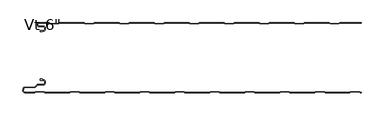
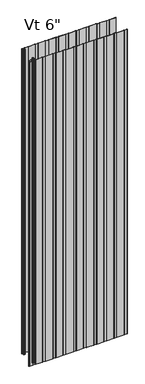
"""IFC4 building model written with IfcOpenShell, lengths in millimetres: plate geometry."""

from ifc_helpers import new_model, si_unit, point, frame, frame_2d, origin, origin_with_axes, place, context, project, spatial, polyline, circle_curve, trimmed, segment, composite_curve, outline, extrude, source, transform, mapped, element, save
from ifc_brep_helpers import plane_surface, cylinder_surface, revolved_surface, advanced_brep


def plate_7e46fe94(model_context):
    return source(origin(), model_context, "Body", "SolidModel", [
        advanced_brep(
        [(-346.968691, -17.0015202, 2400.0), (-347.9686883, -18.0015234, 2400.0), (-346.968691, -19.0015147, 2400.0), (-342.9684874, -19.0015147, 2400.0), (-342.9684874, -18.0015202, 2400.0), (-340.2762776, -18.0015202, 2400.0), (-336.9762819, -14.7015245, 2400.0), (-336.9762819, -10.3015333, 2400.0), (-340.2762774, -7.0015378, 2400.0), (-350.6962563, -7.0015378, 2400.0), (-352.4662505, -5.2315436, 2400.0), (-352.4662505, -0.9999959, 2400.0), (-327.9659738, -0.9999959, 2400.0), (-326.5803312, -2.200235, 2400.0), (-307.2051649, -2.200235, 2400.0), (-305.819532, -1.0000043, 2400.0), (-251.7661166, -1.0000043, 2400.0), (-250.3804836, -2.200235, 2400.0), (-231.0053173, -2.200235, 2400.0), (-229.6196844, -1.0000043, 2400.0), (-175.566269, -1.0000043, 2400.0), (-174.180636, -2.200235, 2400.0), (-154.8054697, -2.200235, 2400.0), (-153.4198368, -1.0000043, 2400.0), (-99.3664214, -1.0000043, 2400.0), (-97.9807884, -2.200235, 2400.0), (-78.6056221, -2.200235, 2400.0), (-77.2199892, -1.0000043, 2400.0), (-23.1665738, -1.0000043, 2400.0), (-21.7809408, -2.200235, 2400.0), (-2.4057745, -2.200235, 2400.0), (-1.0201416, -1.0000043, 2400.0), (53.0332738, -1.0000043, 2400.0), (54.4189068, -2.200235, 2400.0), (73.7940731, -2.200235, 2400.0), (75.179706, -1.0000043, 2400.0), (129.2331214, -1.0000043, 2400.0), (130.6187544, -2.200235, 2400.0), (149.9939207, -2.200235, 2400.0), (151.3795536, -1.0000043, 2400.0), (205.432969, -1.0000043, 2400.0), (206.818602, -2.200235, 2400.0), (226.1937683, -2.200235, 2400.0), (227.5794012, -1.0000043, 2400.0), (281.6328166, -1.0000043, 2400.0), (283.0184496, -2.200235, 2400.0), (302.3936159, -2.200235, 2400.0), (303.7792488, -1.0000043, 2400.0), (350.4999998, -1.0000043, 2400.0), (350.4999998, -4.3e-06, 2400.0), (303.9284, -4.3e-06, 2400.0), (303.0117831, -0.3417928, 2400.0), (302.0207355, -1.200235, 2400.0), (283.39133, -1.200235, 2400.0), (282.4002824, -0.3417928, 2400.0), (281.4836655, -4.3e-06, 2400.0), (227.7285524, -4.3e-06, 2400.0), (226.8119355, -0.3417928, 2400.0), (225.8208879, -1.200235, 2400.0), (207.1914824, -1.200235, 2400.0), (206.2004348, -0.3417928, 2400.0), (205.2838179, -4.3e-06, 2400.0), (151.5287048, -4.3e-06, 2400.0), (150.6120879, -0.3417928, 2400.0), (149.6210403, -1.200235, 2400.0), (130.9916348, -1.200235, 2400.0), (130.0005872, -0.3417928, 2400.0), (129.0839703, -4.3e-06, 2400.0), (75.3288572, -4.3e-06, 2400.0), (74.4122403, -0.3417928, 2400.0), (73.4211927, -1.200235, 2400.0), (54.7917872, -1.200235, 2400.0), (53.8007396, -0.3417928, 2400.0), (52.8841227, -4.3e-06, 2400.0), (-0.8709904, -4.3e-06, 2400.0), (-1.7876073, -0.3417928, 2400.0), (-2.7786549, -1.200235, 2400.0), (-21.4080604, -1.200235, 2400.0), (-22.399108, -0.3417928, 2400.0), (-23.3157249, -4.3e-06, 2400.0), (-77.070838, -4.3e-06, 2400.0), (-77.9874549, -0.3417928, 2400.0), (-78.9785025, -1.200235, 2400.0), (-97.607908, -1.200235, 2400.0), (-98.5989556, -0.3417928, 2400.0), (-99.5155725, -4.3e-06, 2400.0), (-153.2706856, -4.3e-06, 2400.0), (-154.1873025, -0.3417928, 2400.0), (-155.1783501, -1.200235, 2400.0), (-173.8077556, -1.200235, 2400.0), (-174.7988032, -0.3417928, 2400.0), (-175.7154201, -4.3e-06, 2400.0), (-229.4705332, -4.3e-06, 2400.0), (-230.3871501, -0.3417928, 2400.0), (-231.3781977, -1.200235, 2400.0), (-250.0076032, -1.200235, 2400.0), (-250.9986508, -0.3417928, 2400.0), (-251.9152677, -4.3e-06, 2400.0), (-305.6703808, -4.3e-06, 2400.0), (-306.5869977, -0.3417928, 2400.0), (-307.5780453, -1.200235, 2400.0), (-326.2074508, -1.200235, 2400.0), (-327.1984984, -0.3417928, 2400.0), (-328.1152067, -4.3e-06, 2400.0), (-352.0662543, 4.1e-06, 2400.0), (-353.4662505, -1.3999921, 2400.0), (-353.4662505, -5.2315436, 2400.0), (-350.6962563, -8.0015378, 2400.0), (-340.2762774, -8.0015378, 2400.0), (-337.9762819, -10.3015333, 2400.0), (-337.9762819, -14.7015245, 2400.0), (-340.2762776, -17.0015202, 2400.0), (-346.968691, -17.0015202, 0.0), (-340.2762776, -17.0015202, 0.0), (-337.9762819, -14.7015245, 0.0), (-337.9762819, -10.3015333, 0.0), (-340.2762774, -8.0015378, 0.0), (-350.6962563, -8.0015378, 0.0), (-353.4662505, -5.2315436, 0.0), (-353.4662505, -1.3999921, 0.0), (-352.0662543, 4.1e-06, 0.0), (-328.1151153, 4.1e-06, 0.0), (-327.1984984, -0.3417928, 0.0), (-326.2074508, -1.200235, 0.0), (-307.5780453, -1.200235, 0.0), (-306.5869977, -0.3417928, 0.0), (-305.6703808, -4.3e-06, 0.0), (-251.9152677, -4.3e-06, 0.0), (-250.9986508, -0.3417928, 0.0), (-250.0076032, -1.200235, 0.0), (-231.3781977, -1.200235, 0.0), (-230.3871501, -0.3417928, 0.0), (-229.4705332, -4.3e-06, 0.0), (-175.7154201, -4.3e-06, 0.0), (-174.7988032, -0.3417928, 0.0), (-173.8077556, -1.200235, 0.0), (-155.1783501, -1.200235, 0.0), (-154.1873025, -0.3417928, 0.0), (-153.2706856, -4.3e-06, 0.0), (-99.5155725, -4.3e-06, 0.0), (-98.5989556, -0.3417928, 0.0), (-97.607908, -1.200235, 0.0), (-78.9785025, -1.200235, 0.0), (-77.9874549, -0.3417928, 0.0), (-77.070838, -4.3e-06, 0.0), (-23.3157249, -4.3e-06, 0.0), (-22.399108, -0.3417928, 0.0), (-21.4080604, -1.200235, 0.0), (-2.7786549, -1.200235, 0.0), (-1.7876073, -0.3417928, 0.0), (-0.8709904, -4.3e-06, 0.0), (52.8841227, -4.3e-06, 0.0), (53.8007396, -0.3417928, 0.0), (54.7917872, -1.200235, 0.0), (73.4211927, -1.200235, 0.0), (74.4122403, -0.3417928, 0.0), (75.3288572, -4.3e-06, 0.0), (129.0839703, -4.3e-06, 0.0), (130.0005872, -0.3417928, 0.0), (130.9916348, -1.200235, 0.0), (149.6210403, -1.200235, 0.0), (150.6120879, -0.3417928, 0.0), (151.5287048, -4.3e-06, 0.0), (205.2838179, -4.3e-06, 0.0), (206.2004348, -0.3417928, 0.0), (207.1914824, -1.200235, 0.0), (225.8208879, -1.200235, 0.0), (226.8119355, -0.3417928, 0.0), (227.7285524, -4.3e-06, 0.0), (281.4836655, -4.3e-06, 0.0), (282.4002824, -0.3417928, 0.0), (283.39133, -1.200235, 0.0), (302.0207355, -1.200235, 0.0), (303.0117831, -0.3417928, 0.0), (303.9284, -4.3e-06, 0.0), (350.4999998, -4.3e-06, 0.0), (350.4999998, -1.0000043, 0.0), (303.7792488, -1.0000043, 0.0), (302.3936159, -2.200235, 0.0), (283.0184496, -2.200235, 0.0), (281.6328166, -1.0000043, 0.0), (227.5794012, -1.0000043, 0.0), (226.1937683, -2.200235, 0.0), (206.818602, -2.200235, 0.0), (205.432969, -1.0000043, 0.0), (151.3795536, -1.0000043, 0.0), (149.9939207, -2.200235, 0.0), (130.6187544, -2.200235, 0.0), (129.2331214, -1.0000043, 0.0), (75.179706, -1.0000043, 0.0), (73.7940731, -2.200235, 0.0), (54.4189068, -2.200235, 0.0), (53.0332738, -1.0000043, 0.0), (-1.0201416, -1.0000043, 0.0), (-2.4057745, -2.200235, 0.0), (-21.7809408, -2.200235, 0.0), (-23.1665738, -1.0000043, 0.0), (-77.2199892, -1.0000043, 0.0), (-78.6056221, -2.200235, 0.0), (-97.9807884, -2.200235, 0.0), (-99.3664214, -1.0000043, 0.0), (-153.4198368, -1.0000043, 0.0), (-154.8054697, -2.200235, 0.0), (-174.180636, -2.200235, 0.0), (-175.566269, -1.0000043, 0.0), (-229.6196844, -1.0000043, 0.0), (-231.0053173, -2.200235, 0.0), (-250.3804836, -2.200235, 0.0), (-251.7661166, -1.0000043, 0.0), (-305.819532, -1.0000043, 0.0), (-307.2051649, -2.200235, 0.0), (-326.5803312, -2.200235, 0.0), (-327.9659738, -0.9999959, 0.0), (-352.4662505, -0.9999959, 0.0), (-352.4662505, -5.2315436, 0.0), (-350.6962563, -7.0015378, 0.0), (-340.2762774, -7.0015378, 0.0), (-336.9762819, -10.3015333, 0.0), (-336.9762819, -14.7015245, 0.0), (-340.2762776, -18.0015202, 0.0), (-342.9684874, -18.0015202, 0.0), (-342.9684874, -19.0015147, 0.0), (-346.968691, -19.0015147, 0.0), (-347.9686882, -18.0015235, 0.0)],
        [
            (0, 1, circle_curve(frame((-346.968691, -18.0015175, 2400.0), z_axis=(0.0, 0.0, 1.0), x_axis=(1.0, 0.0, 0.0)), 0.9999973)),
            (1, 2, circle_curve(frame((-346.968691, -18.0015175, 2400.0), z_axis=(0.0, 0.0, 1.0), x_axis=(1.0, 0.0, 0.0)), 0.9999972)),
            (2, 3),
            (3, 4),
            (4, 5),
            (5, 6, circle_curve(frame((-340.2762776, -14.7015245, 2400.0), z_axis=(0.0, 0.0, 1.0), x_axis=(1.0, 0.0, 0.0)), 3.2999957)),
            (6, 7),
            (7, 8, circle_curve(frame((-340.2762774, -10.3015333, 2400.0), z_axis=(0.0, 0.0, 1.0), x_axis=(1.0, 0.0, 0.0)), 3.2999955)),
            (8, 9),
            (9, 10, circle_curve(frame((-350.6962563, -5.2315436, 2400.0), z_axis=(0.0, 0.0, -1.0), x_axis=(1.0, 0.0, 0.0)), 1.7699942)),
            (10, 11),
            (11, 12),
            (12, 13),
            (13, 14),
            (14, 15),
            (15, 16),
            (16, 17),
            (17, 18),
            (18, 19),
            (19, 20),
            (20, 21),
            (21, 22),
            (22, 23),
            (23, 24),
            (24, 25),
            (25, 26),
            (26, 27),
            (27, 28),
            (28, 29),
            (29, 30),
            (30, 31),
            (31, 32),
            (32, 33),
            (33, 34),
            (34, 35),
            (35, 36),
            (36, 37),
            (37, 38),
            (38, 39),
            (39, 40),
            (40, 41),
            (41, 42),
            (42, 43),
            (43, 44),
            (44, 45),
            (45, 46),
            (46, 47),
            (47, 48),
            (48, 49),
            (49, 50),
            (50, 51, circle_curve(frame((303.9284, -1.4000015, 2400.0), z_axis=(0.0, 0.0, 1.0), x_axis=(1.0, 0.0, 0.0)), 1.3999972)),
            (51, 52),
            (52, 53),
            (53, 54),
            (54, 55, circle_curve(frame((281.4836655, -1.4000015, 2400.0), z_axis=(0.0, 0.0, 1.0), x_axis=(1.0, 0.0, 0.0)), 1.3999972)),
            (55, 56),
            (56, 57, circle_curve(frame((227.7285524, -1.4000015, 2400.0), z_axis=(0.0, 0.0, 1.0), x_axis=(1.0, 0.0, 0.0)), 1.3999972)),
            (57, 58),
            (58, 59),
            (59, 60),
            (60, 61, circle_curve(frame((205.2838179, -1.4000015, 2400.0), z_axis=(0.0, 0.0, 1.0), x_axis=(1.0, 0.0, 0.0)), 1.3999972)),
            (61, 62),
            (62, 63, circle_curve(frame((151.5287048, -1.4000015, 2400.0), z_axis=(0.0, 0.0, 1.0), x_axis=(1.0, 0.0, 0.0)), 1.3999972)),
            (63, 64),
            (64, 65),
            (65, 66),
            (66, 67, circle_curve(frame((129.0839703, -1.4000015, 2400.0), z_axis=(0.0, 0.0, 1.0), x_axis=(1.0, 0.0, 0.0)), 1.3999972)),
            (67, 68),
            (68, 69, circle_curve(frame((75.3288572, -1.4000015, 2400.0), z_axis=(0.0, 0.0, 1.0), x_axis=(1.0, 0.0, 0.0)), 1.3999972)),
            (69, 70),
            (70, 71),
            (71, 72),
            (72, 73, circle_curve(frame((52.8841227, -1.4000015, 2400.0), z_axis=(0.0, 0.0, 1.0), x_axis=(1.0, 0.0, 0.0)), 1.3999972)),
            (73, 74),
            (74, 75, circle_curve(frame((-0.8709904, -1.4000015, 2400.0), z_axis=(0.0, 0.0, 1.0), x_axis=(1.0, 0.0, 0.0)), 1.3999972)),
            (75, 76),
            (76, 77),
            (77, 78),
            (78, 79, circle_curve(frame((-23.3157249, -1.4000015, 2400.0), z_axis=(0.0, 0.0, 1.0), x_axis=(1.0, 0.0, 0.0)), 1.3999972)),
            (79, 80),
            (80, 81, circle_curve(frame((-77.070838, -1.4000015, 2400.0), z_axis=(0.0, 0.0, 1.0), x_axis=(1.0, 0.0, 0.0)), 1.3999972)),
            (81, 82),
            (82, 83),
            (83, 84),
            (84, 85, circle_curve(frame((-99.5155725, -1.4000015, 2400.0), z_axis=(0.0, 0.0, 1.0), x_axis=(1.0, 0.0, 0.0)), 1.3999972)),
            (85, 86),
            (86, 87, circle_curve(frame((-153.2706856, -1.4000015, 2400.0), z_axis=(0.0, 0.0, 1.0), x_axis=(1.0, 0.0, 0.0)), 1.3999972)),
            (87, 88),
            (88, 89),
            (89, 90),
            (90, 91, circle_curve(frame((-175.7154201, -1.4000015, 2400.0), z_axis=(0.0, 0.0, 1.0), x_axis=(1.0, 0.0, 0.0)), 1.3999972)),
            (91, 92),
            (92, 93, circle_curve(frame((-229.4705332, -1.4000015, 2400.0), z_axis=(0.0, 0.0, 1.0), x_axis=(1.0, 0.0, 0.0)), 1.3999972)),
            (93, 94),
            (94, 95),
            (95, 96),
            (96, 97, circle_curve(frame((-251.9152677, -1.4000015, 2400.0), z_axis=(0.0, 0.0, 1.0), x_axis=(1.0, 0.0, 0.0)), 1.3999972)),
            (97, 98),
            (98, 99, circle_curve(frame((-305.6703808, -1.4000015, 2400.0), z_axis=(0.0, 0.0, 1.0), x_axis=(1.0, 0.0, 0.0)), 1.3999972)),
            (99, 100),
            (100, 101),
            (101, 102),
            (102, 103, circle_curve(frame((-328.1151153, -1.4000015, 2400.0), z_axis=(0.0, 0.0, 1.0), x_axis=(1.0, 0.0, 0.0)), 1.3999972)),
            (103, 104),
            (104, 105, circle_curve(frame((-352.0662543, -1.3999921, 2400.0), z_axis=(0.0, 0.0, 1.0), x_axis=(1.0, 0.0, 0.0)), 1.3999962)),
            (105, 106),
            (106, 107, circle_curve(frame((-350.6962563, -5.2315436, 2400.0), z_axis=(0.0, 0.0, 1.0), x_axis=(1.0, 0.0, 0.0)), 2.7699942)),
            (107, 108),
            (108, 109, circle_curve(frame((-340.2762774, -10.3015333, 2400.0), z_axis=(0.0, 0.0, -1.0), x_axis=(1.0, 0.0, 0.0)), 2.2999955)),
            (109, 110),
            (110, 111, circle_curve(frame((-340.2762776, -14.7015245, 2400.0), z_axis=(0.0, 0.0, -1.0), x_axis=(1.0, 0.0, 0.0)), 2.2999957)),
            (111, 0),
            (112, 113),
            (113, 114, circle_curve(frame((-340.2762776, -14.7015245, 0.0), z_axis=(0.0, 0.0, 1.0), x_axis=(1.0, 0.0, 0.0)), 2.2999957)),
            (114, 115),
            (115, 116, circle_curve(frame((-340.2762774, -10.3015333, 0.0), z_axis=(0.0, 0.0, 1.0), x_axis=(1.0, 0.0, 0.0)), 2.2999955)),
            (116, 117),
            (117, 118, circle_curve(frame((-350.6962563, -5.2315436, 0.0), z_axis=(0.0, 0.0, -1.0), x_axis=(1.0, 0.0, 0.0)), 2.7699942)),
            (118, 119),
            (119, 120, circle_curve(frame((-352.0662543, -1.3999921, 0.0), z_axis=(0.0, 0.0, -1.0), x_axis=(1.0, 0.0, 0.0)), 1.3999962)),
            (120, 121),
            (121, 122, circle_curve(frame((-328.1151153, -1.4000015, 0.0), z_axis=(0.0, 0.0, -1.0), x_axis=(1.0, 0.0, 0.0)), 1.3999972)),
            (122, 123),
            (123, 124),
            (124, 125),
            (125, 126, circle_curve(frame((-305.6703808, -1.4000015, 0.0), z_axis=(0.0, 0.0, -1.0), x_axis=(1.0, 0.0, 0.0)), 1.3999972)),
            (126, 127),
            (127, 128, circle_curve(frame((-251.9152677, -1.4000015, 0.0), z_axis=(0.0, 0.0, -1.0), x_axis=(1.0, 0.0, 0.0)), 1.3999972)),
            (128, 129),
            (129, 130),
            (130, 131),
            (131, 132, circle_curve(frame((-229.4705332, -1.4000015, 0.0), z_axis=(0.0, 0.0, -1.0), x_axis=(1.0, 0.0, 0.0)), 1.3999972)),
            (132, 133),
            (133, 134, circle_curve(frame((-175.7154201, -1.4000015, 0.0), z_axis=(0.0, 0.0, -1.0), x_axis=(1.0, 0.0, 0.0)), 1.3999972)),
            (134, 135),
            (135, 136),
            (136, 137),
            (137, 138, circle_curve(frame((-153.2706856, -1.4000015, 0.0), z_axis=(0.0, 0.0, -1.0), x_axis=(1.0, 0.0, 0.0)), 1.3999972)),
            (138, 139),
            (139, 140, circle_curve(frame((-99.5155725, -1.4000015, 0.0), z_axis=(0.0, 0.0, -1.0), x_axis=(1.0, 0.0, 0.0)), 1.3999972)),
            (140, 141),
            (141, 142),
            (142, 143),
            (143, 144, circle_curve(frame((-77.070838, -1.4000015, 0.0), z_axis=(0.0, 0.0, -1.0), x_axis=(1.0, 0.0, 0.0)), 1.3999972)),
            (144, 145),
            (145, 146, circle_curve(frame((-23.3157249, -1.4000015, 0.0), z_axis=(0.0, 0.0, -1.0), x_axis=(1.0, 0.0, 0.0)), 1.3999972)),
            (146, 147),
            (147, 148),
            (148, 149),
            (149, 150, circle_curve(frame((-0.8709904, -1.4000015, 0.0), z_axis=(0.0, 0.0, -1.0), x_axis=(1.0, 0.0, 0.0)), 1.3999972)),
            (150, 151),
            (151, 152, circle_curve(frame((52.8841227, -1.4000015, 0.0), z_axis=(0.0, 0.0, -1.0), x_axis=(1.0, 0.0, 0.0)), 1.3999972)),
            (152, 153),
            (153, 154),
            (154, 155),
            (155, 156, circle_curve(frame((75.3288572, -1.4000015, 0.0), z_axis=(0.0, 0.0, -1.0), x_axis=(1.0, 0.0, 0.0)), 1.3999972)),
            (156, 157),
            (157, 158, circle_curve(frame((129.0839703, -1.4000015, 0.0), z_axis=(0.0, 0.0, -1.0), x_axis=(1.0, 0.0, 0.0)), 1.3999972)),
            (158, 159),
            (159, 160),
            (160, 161),
            (161, 162, circle_curve(frame((151.5287048, -1.4000015, 0.0), z_axis=(0.0, 0.0, -1.0), x_axis=(1.0, 0.0, 0.0)), 1.3999972)),
            (162, 163),
            (163, 164, circle_curve(frame((205.2838179, -1.4000015, 0.0), z_axis=(0.0, 0.0, -1.0), x_axis=(1.0, 0.0, 0.0)), 1.3999972)),
            (164, 165),
            (165, 166),
            (166, 167),
            (167, 168, circle_curve(frame((227.7285524, -1.4000015, 0.0), z_axis=(0.0, 0.0, -1.0), x_axis=(1.0, 0.0, 0.0)), 1.3999972)),
            (168, 169),
            (169, 170, circle_curve(frame((281.4836655, -1.4000015, 0.0), z_axis=(0.0, 0.0, -1.0), x_axis=(1.0, 0.0, 0.0)), 1.3999972)),
            (170, 171),
            (171, 172),
            (172, 173),
            (173, 174, circle_curve(frame((303.9284, -1.4000015, 0.0), z_axis=(0.0, 0.0, -1.0), x_axis=(1.0, 0.0, 0.0)), 1.3999972)),
            (174, 175),
            (175, 176),
            (176, 177),
            (177, 178),
            (178, 179),
            (179, 180),
            (180, 181),
            (181, 182),
            (182, 183),
            (183, 184),
            (184, 185),
            (185, 186),
            (186, 187),
            (187, 188),
            (188, 189),
            (189, 190),
            (190, 191),
            (191, 192),
            (192, 193),
            (193, 194),
            (194, 195),
            (195, 196),
            (196, 197),
            (197, 198),
            (198, 199),
            (199, 200),
            (200, 201),
            (201, 202),
            (202, 203),
            (203, 204),
            (204, 205),
            (205, 206),
            (206, 207),
            (207, 208),
            (208, 209),
            (209, 210),
            (210, 211),
            (211, 212),
            (212, 213),
            (213, 214),
            (214, 215, circle_curve(frame((-350.6962563, -5.2315436, 0.0), z_axis=(0.0, 0.0, 1.0), x_axis=(1.0, 0.0, 0.0)), 1.7699942)),
            (215, 216),
            (216, 217, circle_curve(frame((-340.2762774, -10.3015333, 0.0), z_axis=(0.0, 0.0, -1.0), x_axis=(1.0, 0.0, 0.0)), 3.2999955)),
            (217, 218),
            (218, 219, circle_curve(frame((-340.2762776, -14.7015245, 0.0), z_axis=(0.0, 0.0, -1.0), x_axis=(1.0, 0.0, 0.0)), 3.2999957)),
            (219, 220),
            (220, 221),
            (221, 222),
            (222, 223, circle_curve(frame((-346.968691, -18.0015175, 0.0), z_axis=(0.0, 0.0, -1.0), x_axis=(1.0, 0.0, 0.0)), 0.9999972)),
            (223, 112, circle_curve(frame((-346.968691, -18.0015175, 0.0), z_axis=(0.0, 0.0, -1.0), x_axis=(1.0, 0.0, 0.0)), 0.9999973)),
            (111, 113),
            (112, 0),
            (110, 114),
            (109, 115),
            (108, 116),
            (107, 117),
            (106, 118),
            (105, 119),
            (104, 120),
            (103, 121),
            (102, 122),
            (101, 123),
            (100, 124),
            (99, 125),
            (98, 126),
            (97, 127),
            (96, 128),
            (95, 129),
            (94, 130),
            (93, 131),
            (92, 132),
            (91, 133),
            (90, 134),
            (89, 135),
            (88, 136),
            (87, 137),
            (86, 138),
            (85, 139),
            (84, 140),
            (83, 141),
            (82, 142),
            (81, 143),
            (80, 144),
            (79, 145),
            (78, 146),
            (77, 147),
            (76, 148),
            (75, 149),
            (74, 150),
            (73, 151),
            (72, 152),
            (71, 153),
            (70, 154),
            (69, 155),
            (68, 156),
            (67, 157),
            (66, 158),
            (65, 159),
            (64, 160),
            (63, 161),
            (62, 162),
            (61, 163),
            (39, 185),
            (184, 40),
            (38, 186),
            (37, 187),
            (36, 188),
            (35, 189),
            (34, 190),
            (33, 191),
            (32, 192),
            (31, 193),
            (30, 194),
            (29, 195),
            (28, 196),
            (27, 197),
            (26, 198),
            (25, 199),
            (24, 200),
            (23, 201),
            (22, 202),
            (21, 203),
            (20, 204),
            (19, 205),
            (18, 206),
            (17, 207),
            (16, 208),
            (15, 209),
            (14, 210),
            (13, 211),
            (12, 212),
            (11, 213),
            (10, 214),
            (9, 215),
            (8, 216),
            (7, 217),
            (6, 218),
            (5, 219),
            (4, 220),
            (3, 221),
            (2, 222),
            (1, 223),
            (48, 176),
            (175, 49),
            (60, 164),
            (59, 165),
            (58, 166),
            (57, 167),
            (56, 168),
            (55, 169),
            (54, 170),
            (53, 171),
            (52, 172),
            (51, 173),
            (50, 174),
            (47, 177),
            (46, 178),
            (45, 179),
            (44, 180),
            (43, 181),
            (42, 182),
            (41, 183),
        ],
        [
            plane_surface(frame((32.0000002, -4.3e-06, 2400.0), z_axis=(0.0, 0.0, 1.0), x_axis=(0.0, 1.0, 0.0))),
            plane_surface(frame((32.0000002, -4.3e-06, 0.0), z_axis=(0.0, 0.0, -1.0), x_axis=(0.0, 1.0, 0.0))),
            plane_surface(frame((-346.968691, -17.0015202, 2400.0), z_axis=(0.0, 1.0, 0.0), x_axis=(0.0, 0.0, -1.0))),
            revolved_surface(polyline([(-337.9762819, -14.7015245, 0.0), (-337.9762819, -14.7015245, 2400.0)]), (-340.2762776, -14.7015245, 2400.0), (0.0, 0.0, -1.0)),
            plane_surface(frame((-337.9762819, -14.7015245, 2400.0), z_axis=(-1.0, 0.0, 0.0), x_axis=(0.0, 0.0, -1.0))),
            revolved_surface(polyline([(-337.9762819, -10.3015333, 0.0), (-337.9762819, -10.3015333, 2400.0)]), (-340.2762774, -10.3015333, 2400.0), (0.0, 0.0, -1.0)),
            plane_surface(frame((-340.2762774, -8.0015378, 2400.0), z_axis=(0.0, -1.0, 0.0), x_axis=(0.0, 0.0, -1.0))),
            cylinder_surface(frame((-350.6962563, -5.2315436, 2400.0), z_axis=(0.0, 0.0, 1.0), x_axis=(1.0, 0.0, 0.0)), 2.7699942),
            plane_surface(frame((-353.4662505, -5.2315436, 2400.0), z_axis=(-1.0, 0.0, 0.0), x_axis=(0.0, 0.0, -1.0))),
            cylinder_surface(frame((-352.0662543, -1.3999921, 2400.0), z_axis=(0.0, 0.0, 1.0), x_axis=(1.0, 0.0, 0.0)), 1.3999962),
            plane_surface(frame((-352.0662543, 4.1e-06, 2400.0), z_axis=(0.0, 1.0, 0.0), x_axis=(0.0, 0.0, -1.0))),
            cylinder_surface(frame((-328.1151153, -1.4000015, 2400.0), z_axis=(0.0, 0.0, 1.0), x_axis=(1.0, 0.0, 0.0)), 1.3999972),
            plane_surface(frame((-327.1984984, -0.3417928, 2400.0), z_axis=(0.6547276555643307, 0.7558648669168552, 0.0), x_axis=(0.0, 0.0, -1.0))),
            plane_surface(frame((-316.8927481, -1.200235, 2400.0), z_axis=(0.0, 1.0, 0.0), x_axis=(0.0, 0.0, -1.0))),
            plane_surface(frame((-307.5780453, -1.200235, 2400.0), z_axis=(-0.6547276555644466, 0.7558648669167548, 0.0), x_axis=(0.0, 0.0, -1.0))),
            cylinder_surface(frame((-305.6703808, -1.4000015, 2400.0), z_axis=(0.0, 0.0, 1.0), x_axis=(1.0, 0.0, 0.0)), 1.3999972),
            plane_surface(frame((-305.6703808, -4.3e-06, 2400.0), z_axis=(0.0, 1.0, 0.0), x_axis=(0.0, 0.0, -1.0))),
            cylinder_surface(frame((-251.9152677, -1.4000015, 2400.0), z_axis=(0.0, 0.0, 1.0), x_axis=(1.0, 0.0, 0.0)), 1.3999972),
            plane_surface(frame((-250.9986508, -0.3417928, 2400.0), z_axis=(0.6547276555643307, 0.7558648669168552, 0.0), x_axis=(0.0, 0.0, -1.0))),
            plane_surface(frame((-240.6929005, -1.200235, 2400.0), z_axis=(0.0, 1.0, 0.0), x_axis=(0.0, 0.0, -1.0))),
            plane_surface(frame((-231.3781977, -1.200235, 2400.0), z_axis=(-0.6547276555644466, 0.7558648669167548, 0.0), x_axis=(0.0, 0.0, -1.0))),
            cylinder_surface(frame((-229.4705332, -1.4000015, 2400.0), z_axis=(0.0, 0.0, 1.0), x_axis=(1.0, 0.0, 0.0)), 1.3999972),
            plane_surface(frame((-229.4705332, -4.3e-06, 2400.0), z_axis=(0.0, 1.0, 0.0), x_axis=(0.0, 0.0, -1.0))),
            cylinder_surface(frame((-175.7154201, -1.4000015, 2400.0), z_axis=(0.0, 0.0, 1.0), x_axis=(1.0, 0.0, 0.0)), 1.3999972),
            plane_surface(frame((-174.7988032, -0.3417928, 2400.0), z_axis=(0.6547276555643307, 0.7558648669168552, 0.0), x_axis=(0.0, 0.0, -1.0))),
            plane_surface(frame((-164.4930529, -1.200235, 2400.0), z_axis=(0.0, 1.0, 0.0), x_axis=(0.0, 0.0, -1.0))),
            plane_surface(frame((-155.1783501, -1.200235, 2400.0), z_axis=(-0.6547276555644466, 0.7558648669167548, 0.0), x_axis=(0.0, 0.0, -1.0))),
            cylinder_surface(frame((-153.2706856, -1.4000015, 2400.0), z_axis=(0.0, 0.0, 1.0), x_axis=(1.0, 0.0, 0.0)), 1.3999972),
            plane_surface(frame((-153.2706856, -4.3e-06, 2400.0), z_axis=(0.0, 1.0, 0.0), x_axis=(0.0, 0.0, -1.0))),
            cylinder_surface(frame((-99.5155725, -1.4000015, 2400.0), z_axis=(0.0, 0.0, 1.0), x_axis=(1.0, 0.0, 0.0)), 1.3999972),
            plane_surface(frame((-98.5989556, -0.3417928, 2400.0), z_axis=(0.6547276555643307, 0.7558648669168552, 0.0), x_axis=(0.0, 0.0, -1.0))),
            plane_surface(frame((-88.2932053, -1.200235, 2400.0), z_axis=(0.0, 1.0, 0.0), x_axis=(0.0, 0.0, -1.0))),
            plane_surface(frame((-78.9785025, -1.200235, 2400.0), z_axis=(-0.6547276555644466, 0.7558648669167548, 0.0), x_axis=(0.0, 0.0, -1.0))),
            cylinder_surface(frame((-77.070838, -1.4000015, 2400.0), z_axis=(0.0, 0.0, 1.0), x_axis=(1.0, 0.0, 0.0)), 1.3999972),
            plane_surface(frame((-77.070838, -4.3e-06, 2400.0), z_axis=(0.0, 1.0, 0.0), x_axis=(0.0, 0.0, -1.0))),
            cylinder_surface(frame((-23.3157249, -1.4000015, 2400.0), z_axis=(0.0, 0.0, 1.0), x_axis=(1.0, 0.0, 0.0)), 1.3999972),
            plane_surface(frame((-22.399108, -0.3417928, 2400.0), z_axis=(0.6547276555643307, 0.7558648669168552, 0.0), x_axis=(0.0, 0.0, -1.0))),
            plane_surface(frame((-12.0933577, -1.200235, 2400.0), z_axis=(0.0, 1.0, 0.0), x_axis=(0.0, 0.0, -1.0))),
            plane_surface(frame((-2.7786549, -1.200235, 2400.0), z_axis=(-0.6547276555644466, 0.7558648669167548, 0.0), x_axis=(0.0, 0.0, -1.0))),
            cylinder_surface(frame((-0.8709904, -1.4000015, 2400.0), z_axis=(0.0, 0.0, 1.0), x_axis=(1.0, 0.0, 0.0)), 1.3999972),
            plane_surface(frame((-0.8709904, -4.3e-06, 2400.0), z_axis=(0.0, 1.0, 0.0), x_axis=(0.0, 0.0, -1.0))),
            cylinder_surface(frame((52.8841227, -1.4000015, 2400.0), z_axis=(0.0, 0.0, 1.0), x_axis=(1.0, 0.0, 0.0)), 1.3999972),
            plane_surface(frame((53.8007396, -0.3417928, 2400.0), z_axis=(0.6547276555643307, 0.7558648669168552, 0.0), x_axis=(0.0, 0.0, -1.0))),
            plane_surface(frame((64.1064899, -1.200235, 2400.0), z_axis=(0.0, 1.0, 0.0), x_axis=(0.0, 0.0, -1.0))),
            plane_surface(frame((73.4211927, -1.200235, 2400.0), z_axis=(-0.6547276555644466, 0.7558648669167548, 0.0), x_axis=(0.0, 0.0, -1.0))),
            cylinder_surface(frame((75.3288572, -1.4000015, 2400.0), z_axis=(0.0, 0.0, 1.0), x_axis=(1.0, 0.0, 0.0)), 1.3999972),
            plane_surface(frame((75.3288572, -4.3e-06, 2400.0), z_axis=(0.0, 1.0, 0.0), x_axis=(0.0, 0.0, -1.0))),
            cylinder_surface(frame((129.0839703, -1.4000015, 2400.0), z_axis=(0.0, 0.0, 1.0), x_axis=(1.0, 0.0, 0.0)), 1.3999972),
            plane_surface(frame((130.0005872, -0.3417928, 2400.0), z_axis=(0.6547276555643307, 0.7558648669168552, 0.0), x_axis=(0.0, 0.0, -1.0))),
            plane_surface(frame((140.3063375, -1.200235, 2400.0), z_axis=(0.0, 1.0, 0.0), x_axis=(0.0, 0.0, -1.0))),
            plane_surface(frame((149.6210403, -1.200235, 2400.0), z_axis=(-0.6547276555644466, 0.7558648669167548, 0.0), x_axis=(0.0, 0.0, -1.0))),
            cylinder_surface(frame((151.5287048, -1.4000015, 2400.0), z_axis=(0.0, 0.0, 1.0), x_axis=(1.0, 0.0, 0.0)), 1.3999972),
            plane_surface(frame((151.5287048, -4.3e-06, 2400.0), z_axis=(0.0, 1.0, 0.0), x_axis=(0.0, 0.0, -1.0))),
            plane_surface(frame((205.432969, -1.0000043, 2400.0), z_axis=(0.0, -1.0, 0.0), x_axis=(0.0, 0.0, -1.0))),
            plane_surface(frame((151.3795536, -1.0000043, 2400.0), z_axis=(0.6547276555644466, -0.7558648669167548, 0.0), x_axis=(0.0, 0.0, -1.0))),
            plane_surface(frame((149.9939207, -2.200235, 2400.0), z_axis=(0.0, -1.0, 0.0), x_axis=(0.0, 0.0, -1.0))),
            plane_surface(frame((130.6187544, -2.200235, 2400.0), z_axis=(-0.6547276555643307, -0.7558648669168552, 0.0), x_axis=(0.0, 0.0, -1.0))),
            plane_surface(frame((129.2331214, -1.0000043, 2400.0), z_axis=(0.0, -1.0, 0.0), x_axis=(0.0, 0.0, -1.0))),
            plane_surface(frame((75.179706, -1.0000043, 2400.0), z_axis=(0.6547276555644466, -0.7558648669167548, 0.0), x_axis=(0.0, 0.0, -1.0))),
            plane_surface(frame((73.7940731, -2.200235, 2400.0), z_axis=(0.0, -1.0, 0.0), x_axis=(0.0, 0.0, -1.0))),
            plane_surface(frame((54.4189068, -2.200235, 2400.0), z_axis=(-0.6547276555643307, -0.7558648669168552, 0.0), x_axis=(0.0, 0.0, -1.0))),
            plane_surface(frame((53.0332738, -1.0000043, 2400.0), z_axis=(0.0, -1.0, 0.0), x_axis=(0.0, 0.0, -1.0))),
            plane_surface(frame((-1.0201416, -1.0000043, 2400.0), z_axis=(0.6547276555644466, -0.7558648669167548, 0.0), x_axis=(0.0, 0.0, -1.0))),
            plane_surface(frame((-2.4057745, -2.200235, 2400.0), z_axis=(0.0, -1.0, 0.0), x_axis=(0.0, 0.0, -1.0))),
            plane_surface(frame((-21.7809408, -2.200235, 2400.0), z_axis=(-0.6547276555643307, -0.7558648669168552, 0.0), x_axis=(0.0, 0.0, -1.0))),
            plane_surface(frame((-23.1665738, -1.0000043, 2400.0), z_axis=(0.0, -1.0, 0.0), x_axis=(0.0, 0.0, -1.0))),
            plane_surface(frame((-77.2199892, -1.0000043, 2400.0), z_axis=(0.6547276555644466, -0.7558648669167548, 0.0), x_axis=(0.0, 0.0, -1.0))),
            plane_surface(frame((-78.6056221, -2.200235, 2400.0), z_axis=(0.0, -1.0, 0.0), x_axis=(0.0, 0.0, -1.0))),
            plane_surface(frame((-97.9807884, -2.200235, 2400.0), z_axis=(-0.6547276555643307, -0.7558648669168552, 0.0), x_axis=(0.0, 0.0, -1.0))),
            plane_surface(frame((-99.3664214, -1.0000043, 2400.0), z_axis=(0.0, -1.0, 0.0), x_axis=(0.0, 0.0, -1.0))),
            plane_surface(frame((-153.4198368, -1.0000043, 2400.0), z_axis=(0.6547276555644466, -0.7558648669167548, 0.0), x_axis=(0.0, 0.0, -1.0))),
            plane_surface(frame((-154.8054697, -2.200235, 2400.0), z_axis=(0.0, -1.0, 0.0), x_axis=(0.0, 0.0, -1.0))),
            plane_surface(frame((-174.180636, -2.200235, 2400.0), z_axis=(-0.6547276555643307, -0.7558648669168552, 0.0), x_axis=(0.0, 0.0, -1.0))),
            plane_surface(frame((-175.566269, -1.0000043, 2400.0), z_axis=(0.0, -1.0, 0.0), x_axis=(0.0, 0.0, -1.0))),
            plane_surface(frame((-229.6196844, -1.0000043, 2400.0), z_axis=(0.6547276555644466, -0.7558648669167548, 0.0), x_axis=(0.0, 0.0, -1.0))),
            plane_surface(frame((-231.0053173, -2.200235, 2400.0), z_axis=(0.0, -1.0, 0.0), x_axis=(0.0, 0.0, -1.0))),
            plane_surface(frame((-250.3804836, -2.200235, 2400.0), z_axis=(-0.6547276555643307, -0.7558648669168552, 0.0), x_axis=(0.0, 0.0, -1.0))),
            plane_surface(frame((-251.7661166, -1.0000043, 2400.0), z_axis=(0.0, -1.0, 0.0), x_axis=(0.0, 0.0, -1.0))),
            plane_surface(frame((-305.819532, -1.0000043, 2400.0), z_axis=(0.6547276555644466, -0.7558648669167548, 0.0), x_axis=(0.0, 0.0, -1.0))),
            plane_surface(frame((-307.2051649, -2.200235, 2400.0), z_axis=(0.0, -1.0, 0.0), x_axis=(0.0, 0.0, -1.0))),
            plane_surface(frame((-326.5803312, -2.200235, 2400.0), z_axis=(-0.6547276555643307, -0.7558648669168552, 0.0), x_axis=(0.0, 0.0, -1.0))),
            plane_surface(frame((-327.9659738, -0.9999959, 2400.0), z_axis=(0.0, -1.0, 0.0), x_axis=(0.0, 0.0, -1.0))),
            plane_surface(frame((-352.4662505, -0.9999959, 2400.0), z_axis=(1.0, 0.0, 0.0), x_axis=(0.0, 0.0, -1.0))),
            revolved_surface(polyline([(-348.92626210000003, -5.2315436, 0.0), (-348.92626210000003, -5.2315436, 2400.0)]), (-350.6962563, -5.2315436, 2400.0), (0.0, 0.0, -1.0)),
            plane_surface(frame((-350.6962563, -7.0015378, 2400.0), z_axis=(0.0, 1.0, 0.0), x_axis=(0.0, 0.0, -1.0))),
            cylinder_surface(frame((-340.2762774, -10.3015333, 2400.0), z_axis=(0.0, 0.0, 1.0), x_axis=(1.0, 0.0, 0.0)), 3.2999955),
            plane_surface(frame((-336.9762819, -10.3015333, 2400.0), z_axis=(1.0, 0.0, 0.0), x_axis=(0.0, 0.0, -1.0))),
            cylinder_surface(frame((-340.2762776, -14.7015245, 2400.0), z_axis=(0.0, 0.0, 1.0), x_axis=(1.0, 0.0, 0.0)), 3.2999957),
            plane_surface(frame((-340.2762776, -18.0015202, 2400.0), z_axis=(0.0, -1.0, 0.0), x_axis=(0.0, 0.0, -1.0))),
            plane_surface(frame((-342.9684874, -18.0015202, 2400.0), z_axis=(1.0, 0.0, 0.0), x_axis=(0.0, 0.0, -1.0))),
            plane_surface(frame((-342.9684874, -19.0015147, 2400.0), z_axis=(0.0, -1.0, 0.0), x_axis=(0.0, 0.0, -1.0))),
            cylinder_surface(frame((-346.968691, -18.0015175, 2400.0), z_axis=(0.0, 0.0, 1.0), x_axis=(1.0, 0.0, 0.0)), 0.9999972),
            cylinder_surface(frame((-346.968691, -18.0015175, 2400.0), z_axis=(0.0, 0.0, 1.0), x_axis=(1.0, 0.0, 0.0)), 0.9999973),
            plane_surface(frame((350.4999998, -162.4000043, 2400.0), z_axis=(1.0, 0.0, 0.0), x_axis=(0.0, 0.0, -1.0))),
            cylinder_surface(frame((205.2838179, -1.4000015, 2400.0), z_axis=(0.0, 0.0, 1.0), x_axis=(1.0, 0.0, 0.0)), 1.3999972),
            plane_surface(frame((206.2004348, -0.3417928, 2400.0), z_axis=(0.6547276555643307, 0.7558648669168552, 0.0), x_axis=(0.0, 0.0, -1.0))),
            plane_surface(frame((216.5061851, -1.200235, 2400.0), z_axis=(0.0, 1.0, 0.0), x_axis=(0.0, 0.0, -1.0))),
            plane_surface(frame((225.8208879, -1.200235, 2400.0), z_axis=(-0.6547276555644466, 0.7558648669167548, 0.0), x_axis=(0.0, 0.0, -1.0))),
            cylinder_surface(frame((227.7285524, -1.4000015, 2400.0), z_axis=(0.0, 0.0, 1.0), x_axis=(1.0, 0.0, 0.0)), 1.3999972),
            plane_surface(frame((227.7285524, -4.3e-06, 2400.0), z_axis=(0.0, 1.0, 0.0), x_axis=(0.0, 0.0, -1.0))),
            cylinder_surface(frame((281.4836655, -1.4000015, 2400.0), z_axis=(0.0, 0.0, 1.0), x_axis=(1.0, 0.0, 0.0)), 1.3999972),
            plane_surface(frame((282.4002824, -0.3417928, 2400.0), z_axis=(0.6547276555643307, 0.7558648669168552, 0.0), x_axis=(0.0, 0.0, -1.0))),
            plane_surface(frame((292.7060327, -1.200235, 2400.0), z_axis=(0.0, 1.0, 0.0), x_axis=(0.0, 0.0, -1.0))),
            plane_surface(frame((302.0207355, -1.200235, 2400.0), z_axis=(-0.6547276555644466, 0.7558648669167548, 0.0), x_axis=(0.0, 0.0, -1.0))),
            cylinder_surface(frame((303.9284, -1.4000015, 2400.0), z_axis=(0.0, 0.0, 1.0), x_axis=(1.0, 0.0, 0.0)), 1.3999972),
            plane_surface(frame((303.9284, -4.3e-06, 2400.0), z_axis=(0.0, 1.0, 0.0), x_axis=(0.0, 0.0, -1.0))),
            plane_surface(frame((357.8326642, -1.0000043, 2400.0), z_axis=(0.0, -1.0, 0.0), x_axis=(0.0, 0.0, -1.0))),
            plane_surface(frame((303.7792488, -1.0000043, 2400.0), z_axis=(0.6547276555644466, -0.7558648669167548, 0.0), x_axis=(0.0, 0.0, -1.0))),
            plane_surface(frame((302.3936159, -2.200235, 2400.0), z_axis=(0.0, -1.0, 0.0), x_axis=(0.0, 0.0, -1.0))),
            plane_surface(frame((283.0184496, -2.200235, 2400.0), z_axis=(-0.6547276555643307, -0.7558648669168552, 0.0), x_axis=(0.0, 0.0, -1.0))),
            plane_surface(frame((281.6328166, -1.0000043, 2400.0), z_axis=(0.0, -1.0, 0.0), x_axis=(0.0, 0.0, -1.0))),
            plane_surface(frame((227.5794012, -1.0000043, 2400.0), z_axis=(0.6547276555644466, -0.7558648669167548, 0.0), x_axis=(0.0, 0.0, -1.0))),
            plane_surface(frame((226.1937683, -2.200235, 2400.0), z_axis=(0.0, -1.0, 0.0), x_axis=(0.0, 0.0, -1.0))),
            plane_surface(frame((206.818602, -2.200235, 2400.0), z_axis=(-0.6547276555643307, -0.7558648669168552, 0.0), x_axis=(0.0, 0.0, -1.0))),
        ],
        [
            (0, [[1, 2, 3, 4, 5, 6, 7, 8, 9, 10, 11, 12, 13, 14, 15, 16, 17, 18, 19, 20, 21, 22, 23, 24, 25, 26, 27, 28, 29, 30, 31, 32, 33, 34, 35, 36, 37, 38, 39, 40, 41, 42, 43, 44, 45, 46, 47, 48, 49, 50, 51, 52, 53, 54, 55, 56, 57, 58, 59, 60, 61, 62, 63, 64, 65, 66, 67, 68, 69, 70, 71, 72, 73, 74, 75, 76, 77, 78, 79, 80, 81, 82, 83, 84, 85, 86, 87, 88, 89, 90, 91, 92, 93, 94, 95, 96, 97, 98, 99, 100, 101, 102, 103, 104, 105, 106, 107, 108, 109, 110, 111, 112]]),
            (1, [[113, 114, 115, 116, 117, 118, 119, 120, 121, 122, 123, 124, 125, 126, 127, 128, 129, 130, 131, 132, 133, 134, 135, 136, 137, 138, 139, 140, 141, 142, 143, 144, 145, 146, 147, 148, 149, 150, 151, 152, 153, 154, 155, 156, 157, 158, 159, 160, 161, 162, 163, 164, 165, 166, 167, 168, 169, 170, 171, 172, 173, 174, 175, 176, 177, 178, 179, 180, 181, 182, 183, 184, 185, 186, 187, 188, 189, 190, 191, 192, 193, 194, 195, 196, 197, 198, 199, 200, 201, 202, 203, 204, 205, 206, 207, 208, 209, 210, 211, 212, 213, 214, 215, 216, 217, 218, 219, 220, 221, 222, 223, 224]]),
            (2, [[225, -113, 226, -112]]),
            (3, [[227, -114, -225, -111]]),
            (4, [[228, -115, -227, -110]]),
            (5, [[229, -116, -228, -109]]),
            (6, [[230, -117, -229, -108]]),
            (7, [[231, -118, -230, -107]]),
            (8, [[232, -119, -231, -106]]),
            (9, [[233, -120, -232, -105]]),
            (10, [[234, -121, -233, -104]]),
            (11, [[235, -122, -234, -103]]),
            (12, [[236, -123, -235, -102]]),
            (13, [[237, -124, -236, -101]]),
            (14, [[238, -125, -237, -100]]),
            (15, [[239, -126, -238, -99]]),
            (16, [[240, -127, -239, -98]]),
            (17, [[241, -128, -240, -97]]),
            (18, [[242, -129, -241, -96]]),
            (19, [[243, -130, -242, -95]]),
            (20, [[244, -131, -243, -94]]),
            (21, [[245, -132, -244, -93]]),
            (22, [[246, -133, -245, -92]]),
            (23, [[247, -134, -246, -91]]),
            (24, [[248, -135, -247, -90]]),
            (25, [[249, -136, -248, -89]]),
            (26, [[250, -137, -249, -88]]),
            (27, [[251, -138, -250, -87]]),
            (28, [[252, -139, -251, -86]]),
            (29, [[253, -140, -252, -85]]),
            (30, [[254, -141, -253, -84]]),
            (31, [[255, -142, -254, -83]]),
            (32, [[256, -143, -255, -82]]),
            (33, [[257, -144, -256, -81]]),
            (34, [[258, -145, -257, -80]]),
            (35, [[259, -146, -258, -79]]),
            (36, [[260, -147, -259, -78]]),
            (37, [[261, -148, -260, -77]]),
            (38, [[262, -149, -261, -76]]),
            (39, [[263, -150, -262, -75]]),
            (40, [[264, -151, -263, -74]]),
            (41, [[265, -152, -264, -73]]),
            (42, [[266, -153, -265, -72]]),
            (43, [[267, -154, -266, -71]]),
            (44, [[268, -155, -267, -70]]),
            (45, [[269, -156, -268, -69]]),
            (46, [[270, -157, -269, -68]]),
            (47, [[271, -158, -270, -67]]),
            (48, [[272, -159, -271, -66]]),
            (49, [[273, -160, -272, -65]]),
            (50, [[274, -161, -273, -64]]),
            (51, [[275, -162, -274, -63]]),
            (52, [[276, -163, -275, -62]]),
            (53, [[277, -185, 278, -40]]),
            (54, [[279, -186, -277, -39]]),
            (55, [[280, -187, -279, -38]]),
            (56, [[281, -188, -280, -37]]),
            (57, [[282, -189, -281, -36]]),
            (58, [[283, -190, -282, -35]]),
            (59, [[284, -191, -283, -34]]),
            (60, [[285, -192, -284, -33]]),
            (61, [[286, -193, -285, -32]]),
            (62, [[287, -194, -286, -31]]),
            (63, [[288, -195, -287, -30]]),
            (64, [[289, -196, -288, -29]]),
            (65, [[290, -197, -289, -28]]),
            (66, [[291, -198, -290, -27]]),
            (67, [[292, -199, -291, -26]]),
            (68, [[293, -200, -292, -25]]),
            (69, [[294, -201, -293, -24]]),
            (70, [[295, -202, -294, -23]]),
            (71, [[296, -203, -295, -22]]),
            (72, [[297, -204, -296, -21]]),
            (73, [[298, -205, -297, -20]]),
            (74, [[299, -206, -298, -19]]),
            (75, [[300, -207, -299, -18]]),
            (76, [[301, -208, -300, -17]]),
            (77, [[302, -209, -301, -16]]),
            (78, [[303, -210, -302, -15]]),
            (79, [[304, -211, -303, -14]]),
            (80, [[305, -212, -304, -13]]),
            (81, [[306, -213, -305, -12]]),
            (82, [[307, -214, -306, -11]]),
            (83, [[308, -215, -307, -10]]),
            (84, [[309, -216, -308, -9]]),
            (85, [[310, -217, -309, -8]]),
            (86, [[311, -218, -310, -7]]),
            (87, [[312, -219, -311, -6]]),
            (88, [[313, -220, -312, -5]]),
            (89, [[314, -221, -313, -4]]),
            (90, [[315, -222, -314, -3]]),
            (91, [[316, -223, -315, -2]]),
            (92, [[-226, -224, -316, -1]]),
            (93, [[317, -176, 318, -49]]),
            (94, [[319, -164, -276, -61]]),
            (95, [[320, -165, -319, -60]]),
            (96, [[321, -166, -320, -59]]),
            (97, [[322, -167, -321, -58]]),
            (98, [[323, -168, -322, -57]]),
            (99, [[324, -169, -323, -56]]),
            (100, [[325, -170, -324, -55]]),
            (101, [[326, -171, -325, -54]]),
            (102, [[327, -172, -326, -53]]),
            (103, [[328, -173, -327, -52]]),
            (104, [[329, -174, -328, -51]]),
            (105, [[-50, -318, -175, -329]]),
            (106, [[-177, -317, -48, 330]]),
            (107, [[331, -178, -330, -47]]),
            (108, [[332, -179, -331, -46]]),
            (109, [[333, -180, -332, -45]]),
            (110, [[334, -181, -333, -44]]),
            (111, [[335, -182, -334, -43]]),
            (112, [[336, -183, -335, -42]]),
            (113, [[-278, -184, -336, -41]]),
        ],
    ),
        extrude(outline(composite_curve([segment(polyline([(-359.6415932, -152.3997421), (-381.4521175, -152.3997421)]), True, "CONTINUOUS"), segment(trimmed(circle_curve(frame_2d((-381.4521175, -148.8295028)), 3.5702393), [point((-381.4521175, -152.3997421))], [point((-385.0087619, -148.5182324))], False, "CARTESIAN"), True, "CONTINUOUS"), segment(polyline([(-385.0087619, -148.5182324), (-384.5690674, -143.4941858)]), True, "CONTINUOUS"), segment(trimmed(circle_curve(frame_2d((-380.9198391, -144.1049869)), 3.6999926), [point((-384.5690674, -143.4941858))], [point((-380.9198391, -140.4049943))], False, "CARTESIAN"), True, "CONTINUOUS"), segment(polyline([(-380.9198391, -140.4049943), (-359.7773995, -140.4049943)]), True, "CONTINUOUS"), segment(trimmed(circle_curve(frame_2d((-359.7773995, -139.1049969)), 1.2999974), [point((-359.7773995, -140.4049943))], [point((-358.8581626, -140.0242339))], True, "CARTESIAN"), True, "CONTINUOUS"), segment(polyline([(-358.8581626, -140.0242339), (-354.0297451, -135.1958164)]), True, "CONTINUOUS"), segment(trimmed(circle_curve(frame_2d((-352.1205606, -137.1050009)), 2.6999946), [point((-354.0297451, -135.1958164))], [point((-352.1205606, -134.4050063))], False, "CARTESIAN"), True, "CONTINUOUS"), segment(polyline([(-352.1205606, -134.4050063), (-340.3096715, -134.4050063)]), True, "CONTINUOUS"), segment(trimmed(circle_curve(frame_2d((-340.3096715, -132.055011)), 2.3499953), [point((-340.3096715, -134.4050063))], [point((-337.9596762, -132.055011))], True, "CARTESIAN"), True, "CONTINUOUS"), segment(polyline([(-337.9596762, -132.055011), (-337.9596762, -127.6550198)]), True, "CONTINUOUS"), segment(trimmed(circle_curve(frame_2d((-340.3096715, -127.6550198)), 2.3499953), [point((-337.9596762, -127.6550198))], [point((-340.3096715, -125.3050245))], True, "CARTESIAN"), True, "CONTINUOUS"), segment(polyline([(-340.3096715, -125.3050245), (-346.8289777, -125.3050245)]), True, "CONTINUOUS"), segment(trimmed(circle_curve(frame_2d((-346.7686906, -124.1065423)), 1.1999976), [point((-346.8289777, -125.3050245))], [point((-347.9683, -124.0760203))], False, "CARTESIAN"), True, "CONTINUOUS"), segment(trimmed(circle_curve(frame_2d((-346.7686906, -124.1065423)), 1.1999976), [point((-347.9683, -124.0760203))], [point((-346.767176, -122.9065456))], False, "CARTESIAN"), True, "CONTINUOUS"), segment(polyline([(-346.767176, -122.9065456), (-343.0087826, -122.9065456), (-343.0087826, -124.3050245), (-340.3096715, -124.3050245)]), True, "CONTINUOUS"), segment(trimmed(circle_curve(frame_2d((-340.3096715, -127.6550198)), 3.3499953), [point((-340.3096715, -124.3050245))], [point((-336.9596762, -127.6550198))], False, "CARTESIAN"), True, "CONTINUOUS"), segment(polyline([(-336.9596762, -127.6550198), (-336.9596762, -132.055011)]), True, "CONTINUOUS"), segment(trimmed(circle_curve(frame_2d((-340.3096715, -132.055011)), 3.3499953), [point((-336.9596762, -132.055011))], [point((-340.3096715, -135.4050063))], False, "CARTESIAN"), True, "CONTINUOUS"), segment(polyline([(-340.3096715, -135.4050063), (-352.1205606, -135.4050063)]), True, "CONTINUOUS"), segment(trimmed(circle_curve(frame_2d((-352.1205606, -137.1050009)), 1.6999946), [point((-352.1205606, -135.4050063))], [point((-353.3226383, -135.9029232))], True, "CARTESIAN"), True, "CONTINUOUS"), segment(polyline([(-353.3226383, -135.9029232), (-358.8247094, -141.4049943), (-380.9198391, -141.4049943)]), True, "CONTINUOUS"), segment(trimmed(circle_curve(frame_2d((-380.9198391, -144.1049869)), 2.6999926), [point((-380.9198391, -141.4049943))], [point((-383.5765707, -143.6235963))], True, "CARTESIAN"), True, "CONTINUOUS"), segment(polyline([(-383.5765707, -143.6235963), (-384.0125697, -148.6054172)]), True, "CONTINUOUS"), segment(trimmed(circle_curve(frame_2d((-381.4521175, -148.8295028)), 2.5702393), [point((-384.0125697, -148.6054172))], [point((-381.4521175, -151.3997421))], True, "CARTESIAN"), True, "CONTINUOUS"), segment(polyline([(-381.4521175, -151.3997421), (-359.479096, -151.3997421), (-358.2791275, -150.1997736), (-338.559715, -150.1997736), (-337.3594843, -151.4000043), (-283.2793525, -151.4000043), (-282.0791218, -150.1997736), (-262.3597093, -150.1997736), (-261.1594786, -151.4000043), (-207.0793468, -151.4000043), (-205.8791161, -150.1997736), (-186.1597036, -150.1997736), (-184.9594729, -151.4000043), (-130.8793411, -151.4000043), (-129.6791104, -150.1997736), (-109.9596979, -150.1997736), (-108.7594672, -151.4000043), (-54.6793354, -151.4000043), (-53.4791047, -150.1997736), (-33.7596922, -150.1997736), (-32.5594615, -151.4000043), (21.5206703, -151.4000043), (22.720901, -150.1997736), (42.4403135, -150.1997736), (43.6405442, -151.4000043), (97.7206759, -151.4000043), (98.9209066, -150.1997736), (118.6403192, -150.1997736), (119.8405499, -151.4000043), (173.9206816, -151.4000043), (175.1209123, -150.1997736), (194.8403248, -150.1997736), (196.0405555, -151.4000043), (250.1206873, -151.4000043), (251.320918, -150.1997736), (271.0403305, -150.1997736), (272.2405612, -151.4000043), (326.320693, -151.4000043), (327.5209237, -150.1997736), (347.2403362, -150.1997736), (348.4396653, -151.3991027), (350.4999998, -151.3991027), (350.4999998, -152.3991027), (348.6525315, -152.3991027)]), True, "CONTINUOUS"), segment(trimmed(circle_curve(frame_2d((348.6017162, -151.000028)), 1.3999972), [point((348.6525315, -152.3991027))], [point((347.5576654, -151.9327392))], False, "CARTESIAN"), True, "CONTINUOUS"), segment(polyline([(347.5576654, -151.9327392), (346.8246998, -151.1997736), (327.9340306, -151.1997736), (327.201086, -151.9327182)]), True, "CONTINUOUS"), segment(trimmed(circle_curve(frame_2d((326.1570352, -151.0000071)), 1.3999972), [point((327.201086, -151.9327182))], [point((326.1570352, -152.4000043))], False, "CARTESIAN"), True, "CONTINUOUS"), segment(polyline([(326.1570352, -152.4000043), (272.409522, -152.4000043)]), True, "CONTINUOUS"), segment(trimmed(circle_curve(frame_2d((272.4018686, -151.000028)), 1.3999972), [point((272.409522, -152.4000043))], [point((271.3578178, -151.9327392))], False, "CARTESIAN"), True, "CONTINUOUS"), segment(polyline([(271.3578178, -151.9327392), (270.6248522, -151.1997736), (251.734183, -151.1997736), (251.0012384, -151.9327182)]), True, "CONTINUOUS"), segment(trimmed(circle_curve(frame_2d((249.9571876, -151.0000071)), 1.3999972), [point((251.0012384, -151.9327182))], [point((249.9571876, -152.4000043))], False, "CARTESIAN"), True, "CONTINUOUS"), segment(polyline([(249.9571876, -152.4000043), (196.2096744, -152.4000043)]), True, "CONTINUOUS"), segment(trimmed(circle_curve(frame_2d((196.202021, -151.000028)), 1.3999972), [point((196.2096744, -152.4000043))], [point((195.1579702, -151.9327392))], False, "CARTESIAN"), True, "CONTINUOUS"), segment(polyline([(195.1579702, -151.9327392), (194.4250046, -151.1997736), (175.5343354, -151.1997736), (174.8013908, -151.9327182)]), True, "CONTINUOUS"), segment(trimmed(circle_curve(frame_2d((173.75734, -151.0000071)), 1.3999972), [point((174.8013908, -151.9327182))], [point((173.75734, -152.4000043))], False, "CARTESIAN"), True, "CONTINUOUS"), segment(polyline([(173.75734, -152.4000043), (120.0098268, -152.4000043)]), True, "CONTINUOUS"), segment(trimmed(circle_curve(frame_2d((120.0021734, -151.000028)), 1.3999972), [point((120.0098268, -152.4000043))], [point((118.9581226, -151.9327392))], False, "CARTESIAN"), True, "CONTINUOUS"), segment(polyline([(118.9581226, -151.9327392), (118.225157, -151.1997736), (99.3344878, -151.1997736), (98.6015432, -151.9327182)]), True, "CONTINUOUS"), segment(trimmed(circle_curve(frame_2d((97.5574924, -151.0000071)), 1.3999972), [point((98.6015432, -151.9327182))], [point((97.5574924, -152.4000043))], False, "CARTESIAN"), True, "CONTINUOUS"), segment(polyline([(97.5574924, -152.4000043), (43.8099792, -152.4000043)]), True, "CONTINUOUS"), segment(trimmed(circle_curve(frame_2d((43.8023258, -151.000028)), 1.3999972), [point((43.8099792, -152.4000043))], [point((42.758275, -151.9327392))], False, "CARTESIAN"), True, "CONTINUOUS"), segment(polyline([(42.758275, -151.9327392), (42.0253094, -151.1997736), (23.1346402, -151.1997736), (22.4016956, -151.9327182)]), True, "CONTINUOUS"), segment(trimmed(circle_curve(frame_2d((21.3576448, -151.0000071)), 1.3999972), [point((22.4016956, -151.9327182))], [point((21.3576448, -152.4000043))], False, "CARTESIAN"), True, "CONTINUOUS"), segment(polyline([(21.3576448, -152.4000043), (-32.3898684, -152.4000043)]), True, "CONTINUOUS"), segment(trimmed(circle_curve(frame_2d((-32.3975218, -151.000028)), 1.3999972), [point((-32.3898684, -152.4000043))], [point((-33.4415726, -151.9327392))], False, "CARTESIAN"), True, "CONTINUOUS"), segment(polyline([(-33.4415726, -151.9327392), (-34.1745382, -151.1997736), (-53.0652074, -151.1997736), (-53.798152, -151.9327182)]), True, "CONTINUOUS"), segment(trimmed(circle_curve(frame_2d((-54.8422028, -151.0000071)), 1.3999972), [point((-53.798152, -151.9327182))], [point((-54.8422028, -152.4000043))], False, "CARTESIAN"), True, "CONTINUOUS"), segment(polyline([(-54.8422028, -152.4000043), (-108.589716, -152.4000043)]), True, "CONTINUOUS"), segment(trimmed(circle_curve(frame_2d((-108.5973694, -151.000028)), 1.3999972), [point((-108.589716, -152.4000043))], [point((-109.6414202, -151.9327392))], False, "CARTESIAN"), True, "CONTINUOUS"), segment(polyline([(-109.6414202, -151.9327392), (-110.3743858, -151.1997736), (-129.265055, -151.1997736), (-129.9979996, -151.9327182)]), True, "CONTINUOUS"), segment(trimmed(circle_curve(frame_2d((-131.0420504, -151.0000071)), 1.3999972), [point((-129.9979996, -151.9327182))], [point((-131.0420504, -152.4000043))], False, "CARTESIAN"), True, "CONTINUOUS"), segment(polyline([(-131.0420504, -152.4000043), (-184.7895636, -152.4000043)]), True, "CONTINUOUS"), segment(trimmed(circle_curve(frame_2d((-184.797217, -151.000028)), 1.3999972), [point((-184.7895636, -152.4000043))], [point((-185.8412678, -151.9327392))], False, "CARTESIAN"), True, "CONTINUOUS"), segment(polyline([(-185.8412678, -151.9327392), (-186.5742334, -151.1997736), (-205.4649026, -151.1997736), (-206.1978472, -151.9327182)]), True, "CONTINUOUS"), segment(trimmed(circle_curve(frame_2d((-207.241898, -151.0000071)), 1.3999972), [point((-206.1978472, -151.9327182))], [point((-207.241898, -152.4000043))], False, "CARTESIAN"), True, "CONTINUOUS"), segment(polyline([(-207.241898, -152.4000043), (-260.9894112, -152.4000043)]), True, "CONTINUOUS"), segment(trimmed(circle_curve(frame_2d((-260.9970646, -151.000028)), 1.3999972), [point((-260.9894112, -152.4000043))], [point((-262.0411154, -151.9327392))], False, "CARTESIAN"), True, "CONTINUOUS"), segment(polyline([(-262.0411154, -151.9327392), (-262.774081, -151.1997736), (-281.6647502, -151.1997736), (-282.3976948, -151.9327182)]), True, "CONTINUOUS"), segment(trimmed(circle_curve(frame_2d((-283.4417456, -151.0000071)), 1.3999972), [point((-282.3976948, -151.9327182))], [point((-283.4417456, -152.4000043))], False, "CARTESIAN"), True, "CONTINUOUS"), segment(polyline([(-283.4417456, -152.4000043), (-337.1892588, -152.4000043)]), True, "CONTINUOUS"), segment(trimmed(circle_curve(frame_2d((-337.1969122, -151.000028)), 1.3999972), [point((-337.1892588, -152.4000043))], [point((-338.240963, -151.9327392))], False, "CARTESIAN"), True, "CONTINUOUS"), segment(polyline([(-338.240963, -151.9327392), (-338.9739286, -151.1997736), (-357.8649139, -151.1997736), (-358.5976402, -151.9324998)]), True, "CONTINUOUS"), segment(trimmed(circle_curve(frame_2d((-359.6415932, -150.999876)), 1.3998661), [point((-358.5976402, -151.9324998))], [point((-359.6415932, -152.3997421))], False, "CARTESIAN"), True, "CONTINUOUS")], self_intersect=False)), origin_with_axes(), (0.0, 0.0, 1.0), 2400.0),
    ])


if __name__ == "__main__":
    model = new_model("IFC4")
    model_context = context("Model", 3, world=origin())
    ifc_project = project(units=[si_unit("LENGTHUNIT", "METRE", prefix="MILLI")], contexts=[model_context])
    site = spatial("IfcSite", under=ifc_project)
    building = spatial("IfcBuilding", under=site)
    placement = place(None, origin())
    plate_shape = plate_7e46fe94(model_context)
    element("IfcPlate", 1, ObjectType="KIP-30-Karrier-KP-R19-CP-Vt-SL_SL : Vt 6\"", at=placement, inside=building, context=model_context, shape_type="MappedRepresentation", body=[
        mapped(plate_shape, transform((0.0, 0.0, 0.0), x_axis=(1.0, 0.0, 0.0), y_axis=(0.0, 1.0, 0.0), z_axis=(0.0, 0.0, 1.0))),
    ])
    save(model, "model.ifc")
